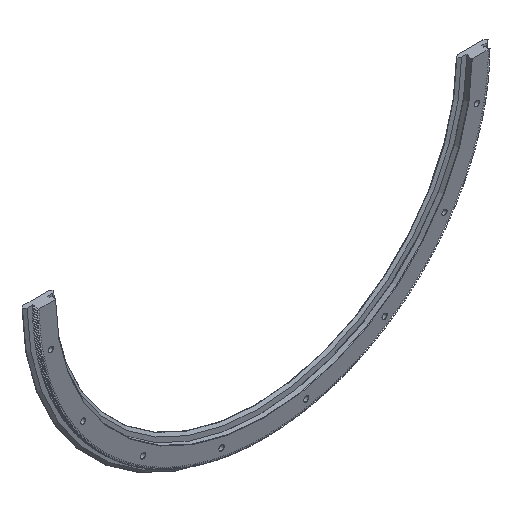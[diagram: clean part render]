
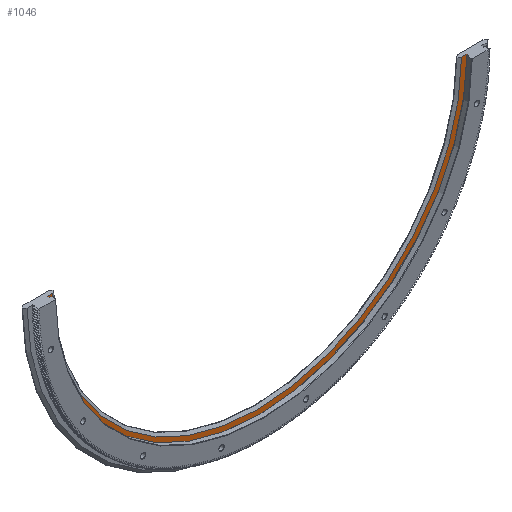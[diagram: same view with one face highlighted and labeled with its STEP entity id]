
A CAD part, isometric view. The second image highlights one B-rep face of the part: STEP entity #1046.
In plain terms, the highlighted planar face has unit normal (0, -1, 0).
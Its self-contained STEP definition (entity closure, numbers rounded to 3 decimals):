
#1046 = ADVANCED_FACE( '', ( #3986 ), #3987, .T. );
#3986 = FACE_OUTER_BOUND( '', #7935, .T. );
#3987 = PLANE( '', #7936 );
#7935 = EDGE_LOOP( '', ( #19282, #19283, #19284, #19285 ) );
#7936 = AXIS2_PLACEMENT_3D( '', #19286, #19287, #19288 );
#19282 = ORIENTED_EDGE( '', *, *, #30587, .T. );
#19283 = ORIENTED_EDGE( '', *, *, #30588, .T. );
#19284 = ORIENTED_EDGE( '', *, *, #30589, .F. );
#19285 = ORIENTED_EDGE( '', *, *, #26103, .T. );
#19286 = CARTESIAN_POINT( '', ( -287.914, 9.5, 0. ) );
#19287 = DIRECTION( '', ( 0., -1., 0. ) );
#19288 = DIRECTION( '', ( 0., 0., -1. ) );
#26103 = EDGE_CURVE( '', #31276, #31274, #31277, .T. );
#30587 = EDGE_CURVE( '', #31274, #38954, #38955, .T. );
#30588 = EDGE_CURVE( '', #38954, #38956, #38957, .T. );
#30589 = EDGE_CURVE( '', #31276, #38956, #38958, .T. );
#31274 = VERTEX_POINT( '', #39691 );
#31276 = VERTEX_POINT( '', #39694 );
#31277 = LINE( '', #39695, #39696 );
#38954 = VERTEX_POINT( '', #52161 );
#38955 = CIRCLE( '', #52162, 295.6 );
#38956 = VERTEX_POINT( '', #52163 );
#38957 = LINE( '', #52164, #52165 );
#38958 = CIRCLE( '', #52166, 287.914 );
#39691 = CARTESIAN_POINT( '', ( -295.593, 9.5, -2. ) );
#39694 = CARTESIAN_POINT( '', ( -287.907, 9.5, -2. ) );
#39695 = CARTESIAN_POINT( '', ( -287.914, 9.5, -2. ) );
#39696 = VECTOR( '', #52875, 1000. );
#52161 = CARTESIAN_POINT( '', ( 295.593, 9.5, -2. ) );
#52162 = AXIS2_PLACEMENT_3D( '', #58692, #58693, #58694 );
#52163 = CARTESIAN_POINT( '', ( 287.907, 9.5, -2. ) );
#52164 = CARTESIAN_POINT( '', ( -287.914, 9.5, -2. ) );
#52165 = VECTOR( '', #58695, 1000. );
#52166 = AXIS2_PLACEMENT_3D( '', #58696, #58697, #58698 );
#52875 = DIRECTION( '', ( -1., 0., 0. ) );
#58692 = CARTESIAN_POINT( '', ( 0., 9.5, 0. ) );
#58693 = DIRECTION( '', ( 0., -1., 0. ) );
#58694 = DIRECTION( '', ( 0., 0., -1. ) );
#58695 = DIRECTION( '', ( -1., 0., 0. ) );
#58696 = CARTESIAN_POINT( '', ( 0., 9.5, 0. ) );
#58697 = DIRECTION( '', ( 0., -1., 0. ) );
#58698 = DIRECTION( '', ( 0., 0., -1. ) );
